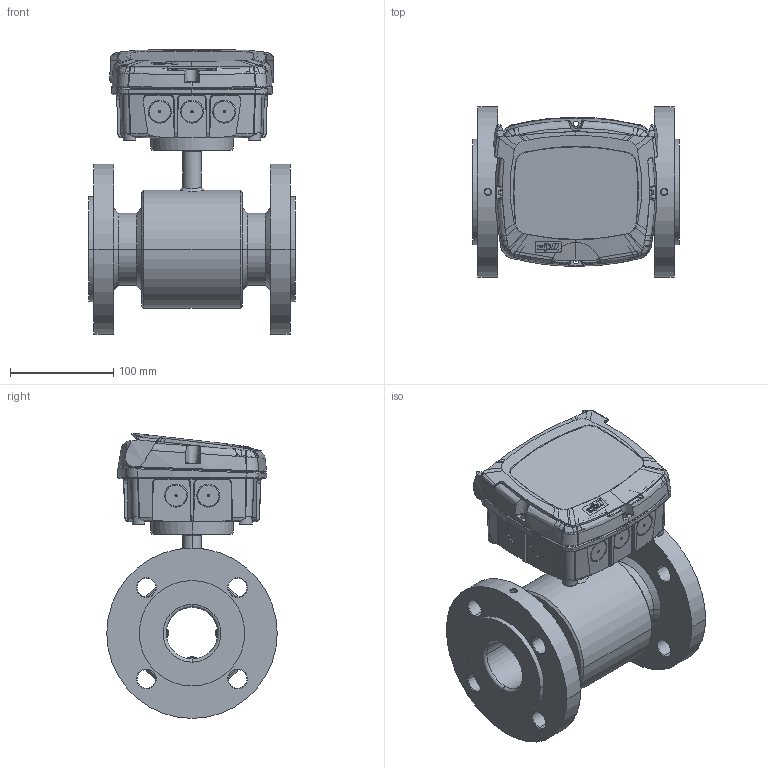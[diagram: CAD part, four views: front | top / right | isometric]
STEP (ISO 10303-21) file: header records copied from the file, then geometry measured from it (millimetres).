
FILE_DESCRIPTION((''),'2;1');
FILE_NAME('207X22 MagFlux 7X00 Sensor DN50 EN 3D.stp','2016-11-15T09:37:51',(''),(''),'Mechanical Desktop 2011','Mechanical Desktop 2011',', , ');
FILE_SCHEMA(('CONFIG_CONTROL_DESIGN'));
Length unit declared in the file: millimetre
Products named in the file (1): Product
Bounding box: 200 x 165 x 275.84 mm (x, y, z)
Volume: 2048841.5 mm3; surface area: 441684.6 mm2
Topology: 7 solids, 7 shells, 3125 faces, 8532 edges, 5539 vertices
Faces by surface type: bspline 1771, plane 810, cone 254, cylinder 245, torus 38, sphere 7
Entity records: 201363 total; most frequent: CARTESIAN_POINT 133967, ORIENTED_EDGE 17020, DIRECTION 9272, EDGE_CURVE 8510, VERTEX_POINT 5539, VECTOR 3444, LINE 3444, EDGE_LOOP 3336
